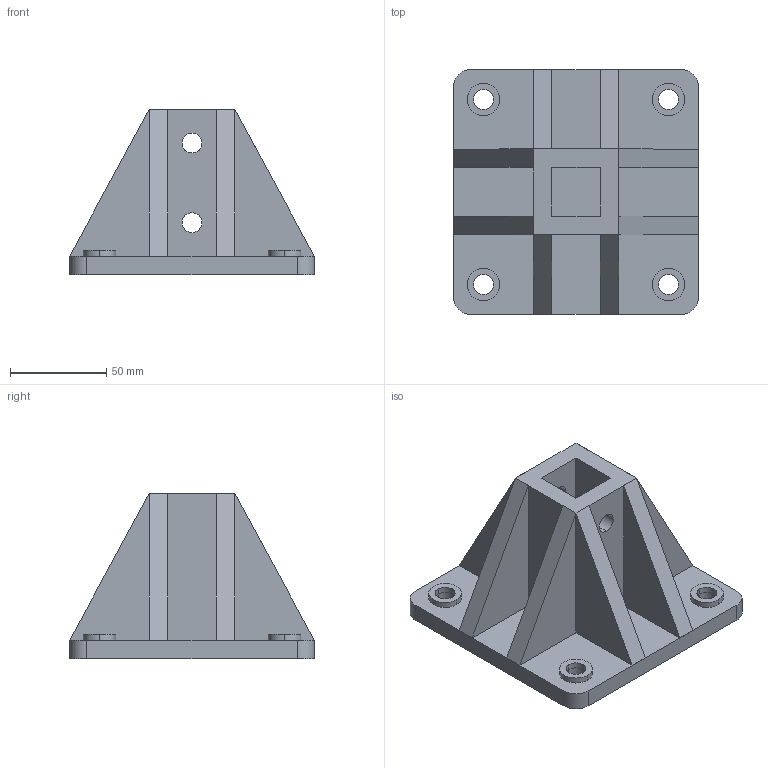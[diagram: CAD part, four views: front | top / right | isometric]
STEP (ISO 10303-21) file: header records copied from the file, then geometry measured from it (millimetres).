
FILE_DESCRIPTION(('TurboCAD Mac Pro'),'Build 980');
FILE_NAME('F20PP-5855.stp',' ',(''),(''),'ACIS Interop','IMSI','TurboCAD Mac Pro BY IMSI, INCORPORATED');
FILE_SCHEMA(('automotive_design'));
Length unit declared in the file: inch
Products named in the file (3): 1; 2; 3
Bounding box: 127 x 127.01 x 85.72 mm (x, y, z)
Volume: 369612.6 mm3; surface area: 90756.7 mm2
Topology: 3 solids, 3 shells, 117 faces, 292 edges, 186 vertices
Faces by surface type: bspline 68, plane 49
Entity records: 5843 total; most frequent: CARTESIAN_POINT 1434, ORIENTED_EDGE 584, STYLED_ITEM 327, PRESENTATION_STYLE_ASSIGNMENT 327, COLOUR_RGB 327, EDGE_CURVE 292, DIRECTION 276, CURVE_STYLE 207
